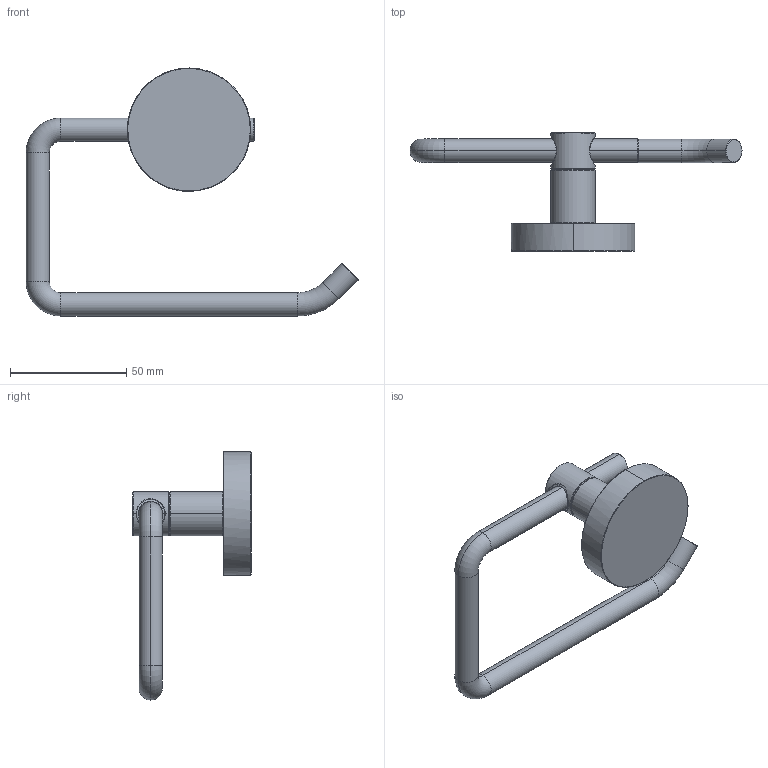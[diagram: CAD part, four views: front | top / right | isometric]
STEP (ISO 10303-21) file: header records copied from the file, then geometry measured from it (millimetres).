
FILE_DESCRIPTION(('THIS FILE CONTAINS SOME STEP INSTANCES'),'1');
FILE_NAME('HAR 047-light.stp','2015-11-18T 9:20:32',('UNDEFINED'),('UNDEFINED'),'T-FLEX CAD STEP converter','T-FLEX CAD','');
FILE_SCHEMA(('CONFIG_CONTROL_DESIGN'));
Length unit declared in the file: metre
Products named in the file (2): 3D 鐨飹懤艜_16; har_047
Bounding box: 142.54 x 51 x 106.5 mm (x, y, z)
Volume: 59428.7 mm3; surface area: 18620 mm2
Topology: 2 solids, 2 shells, 63 faces, 135 edges, 78 vertices
Faces by surface type: cylinder 25, cone 16, bspline 9, plane 7, torus 6
Entity records: 6807 total; most frequent: CARTESIAN_POINT 5680, ORIENTED_EDGE 270, DIRECTION 162, EDGE_CURVE 135, VERTEX_POINT 78, EDGE_LOOP 67, ADVANCED_FACE 63, FACE_OUTER_BOUND 63
